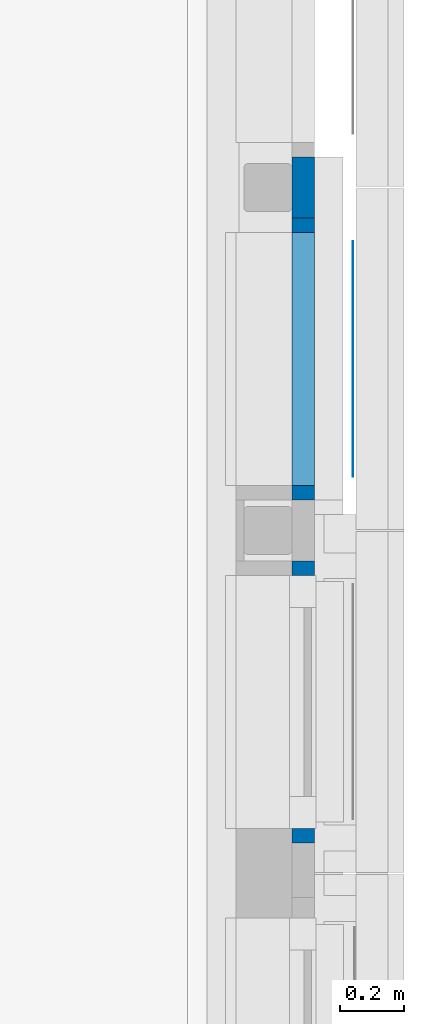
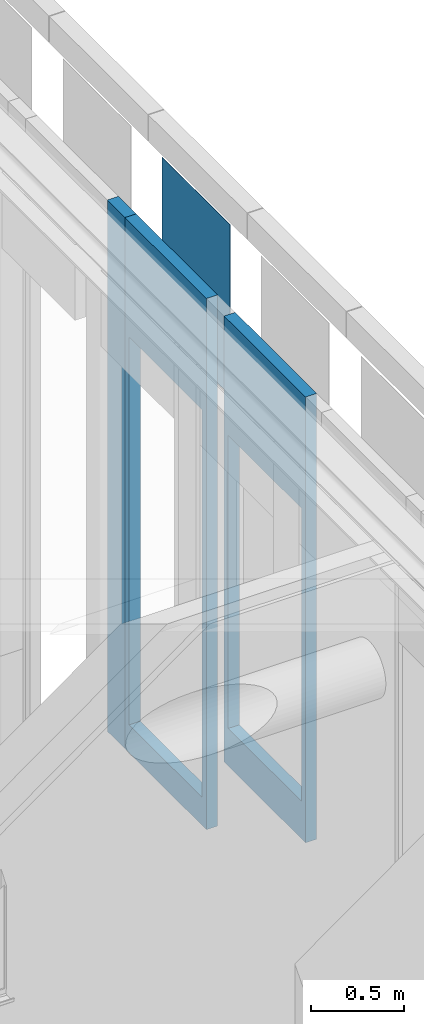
# One storey, part 43 of 128: 4 walls, 2 openings.
"""IFC2X3 building model written with IfcOpenShell, lengths in millimetres."""

from ifc_helpers import new_model, entity, si_unit, converted_unit, derived_unit, direction, frame, frame_2d, origin, place, context, subcontext, project, spatial, rectangle, extrude, material, layer, layer_set, layer_usage, type_object, element, save


model = new_model("IFC2X3")

# Units and contexts
model_context = context("Model", 3, precision=0.01, world=origin(), true_north=direction((6.123031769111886e-17, 1.0)))
body_context = subcontext(model_context, "Body", "Model", "MODEL_VIEW")
ifc_project = project(units=[si_unit("LENGTHUNIT", "METRE", prefix="MILLI"), si_unit("AREAUNIT", "SQUARE_METRE"), si_unit("VOLUMEUNIT", "CUBIC_METRE"), converted_unit("PLANEANGLEUNIT", "DEGREE", entity("IfcRatioMeasure", 0.017453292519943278), si_unit("PLANEANGLEUNIT", "RADIAN"), dimensions=[0, 0, 0, 0, 0, 0, 0]), si_unit("MASSUNIT", "GRAM", prefix="KILO"), derived_unit("MASSDENSITYUNIT", [(si_unit("MASSUNIT", "GRAM", prefix="KILO"), 1), (si_unit("LENGTHUNIT", "METRE"), -3)]), derived_unit("IONCONCENTRATIONUNIT", [(si_unit("MASSUNIT", "GRAM", prefix="KILO"), 1), (si_unit("LENGTHUNIT", "METRE"), -3)]), derived_unit("MOMENTOFINERTIAUNIT", [(si_unit("LENGTHUNIT", "METRE"), 4)]), si_unit("TIMEUNIT", "SECOND"), si_unit("FREQUENCYUNIT", "HERTZ"), si_unit("THERMODYNAMICTEMPERATUREUNIT", "DEGREE_CELSIUS"), derived_unit("THERMALTRANSMITTANCEUNIT", [(si_unit("MASSUNIT", "GRAM", prefix="KILO"), 1), (si_unit("THERMODYNAMICTEMPERATUREUNIT", "KELVIN"), -1), (si_unit("TIMEUNIT", "SECOND"), -3)]), derived_unit("THERMALCONDUCTANCEUNIT", [(si_unit("MASSUNIT", "GRAM", prefix="KILO"), 1), (si_unit("THERMODYNAMICTEMPERATUREUNIT", "KELVIN"), -1), (si_unit("TIMEUNIT", "SECOND"), -3), (si_unit("LENGTHUNIT", "METRE"), 1)]), derived_unit("VOLUMETRICFLOWRATEUNIT", [(si_unit("LENGTHUNIT", "METRE"), 3), (si_unit("TIMEUNIT", "SECOND"), -1)]), derived_unit("MASSFLOWRATEUNIT", [(si_unit("MASSUNIT", "GRAM", prefix="KILO"), 1), (si_unit("TIMEUNIT", "SECOND"), -1)]), derived_unit("ROTATIONALFREQUENCYUNIT", [(si_unit("TIMEUNIT", "SECOND"), -1)]), si_unit("ELECTRICCURRENTUNIT", "AMPERE"), si_unit("ELECTRICVOLTAGEUNIT", "VOLT"), si_unit("POWERUNIT", "WATT"), si_unit("FORCEUNIT", "NEWTON", prefix="KILO"), si_unit("ILLUMINANCEUNIT", "LUX"), si_unit("LUMINOUSFLUXUNIT", "LUMEN"), si_unit("LUMINOUSINTENSITYUNIT", "CANDELA"), derived_unit("USERDEFINED", [(si_unit("MASSUNIT", "GRAM", prefix="KILO"), -1), (si_unit("LENGTHUNIT", "METRE"), -2), (si_unit("TIMEUNIT", "SECOND"), 3), (si_unit("LUMINOUSFLUXUNIT", "LUMEN"), 1)]), derived_unit("USERDEFINED", [(si_unit("MASSUNIT", "GRAM", prefix="KILO"), 1), (si_unit("TIMEUNIT", "SECOND"), -3), (si_unit("LENGTHUNIT", "METRE"), 3), (si_unit("ELECTRICCURRENTUNIT", "AMPERE"), -2)]), derived_unit("SOUNDPOWERUNIT", [(si_unit("MASSUNIT", "GRAM", prefix="KILO"), 1), (si_unit("TIMEUNIT", "SECOND"), -3), (si_unit("LENGTHUNIT", "METRE"), 2)]), derived_unit("SOUNDPRESSUREUNIT", [(si_unit("MASSUNIT", "GRAM", prefix="KILO"), 1), (si_unit("LENGTHUNIT", "METRE"), -1), (si_unit("TIMEUNIT", "SECOND"), -2)]), derived_unit("LINEARVELOCITYUNIT", [(si_unit("LENGTHUNIT", "METRE"), 1), (si_unit("TIMEUNIT", "SECOND"), -1)]), si_unit("PRESSUREUNIT", "PASCAL"), derived_unit("USERDEFINED", [(si_unit("MASSUNIT", "GRAM", prefix="KILO"), 1), (si_unit("LENGTHUNIT", "METRE"), -2), (si_unit("TIMEUNIT", "SECOND"), -2)]), derived_unit("LINEARFORCEUNIT", [(si_unit("MASSUNIT", "GRAM", prefix="KILO"), 1), (si_unit("TIMEUNIT", "SECOND"), -2)]), derived_unit("PLANARFORCEUNIT", [(si_unit("MASSUNIT", "GRAM", prefix="KILO"), 1), (si_unit("LENGTHUNIT", "METRE"), -1), (si_unit("TIMEUNIT", "SECOND"), -2)]), derived_unit("SPECIFICHEATCAPACITYUNIT", [(si_unit("THERMODYNAMICTEMPERATUREUNIT", "KELVIN"), -1), (si_unit("LENGTHUNIT", "METRE"), 2), (si_unit("TIMEUNIT", "SECOND"), -2)]), derived_unit("HEATINGVALUEUNIT", [(si_unit("LENGTHUNIT", "METRE"), 2), (si_unit("TIMEUNIT", "SECOND"), -2)]), derived_unit("VAPORPERMEABILITYUNIT", [(si_unit("LENGTHUNIT", "METRE"), -1), (si_unit("TIMEUNIT", "SECOND"), 1)]), derived_unit("DYNAMICVISCOSITYUNIT", [(si_unit("MASSUNIT", "GRAM", prefix="KILO"), 1), (si_unit("TIMEUNIT", "SECOND"), -1), (si_unit("LENGTHUNIT", "METRE"), -1)]), derived_unit("THERMALEXPANSIONCOEFFICIENTUNIT", [(si_unit("THERMODYNAMICTEMPERATUREUNIT", "KELVIN"), -1)]), derived_unit("MODULUSOFELASTICITYUNIT", [(si_unit("MASSUNIT", "GRAM", prefix="KILO"), 1), (si_unit("LENGTHUNIT", "METRE"), -1), (si_unit("TIMEUNIT", "SECOND"), -2)]), derived_unit("ISOTHERMALMOISTURECAPACITYUNIT", [(si_unit("LENGTHUNIT", "METRE"), 3), (si_unit("MASSUNIT", "GRAM", prefix="KILO"), -1)]), derived_unit("MOISTUREDIFFUSIVITYUNIT", [(si_unit("TIMEUNIT", "SECOND"), -1), (si_unit("LENGTHUNIT", "METRE"), 2)])], contexts=[model_context])

# Site, building, storey
site_placement = place(None, frame((0.0, 300.0, 0.0)))
site = spatial("IfcSite", under=ifc_project, at=site_placement, Name="<Kadastrale nummers>", CompositionType="ELEMENT")
building_placement = place(site_placement, origin())
building = spatial("IfcBuilding", under=site, at=building_placement, CompositionType="ELEMENT")
storey_placement = place(building_placement, frame((0.0, 0.0, 3560.0000331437)))
storey = spatial("IfcBuildingStorey", under=building, at=storey_placement, Name="01 eerste verdieping", CompositionType="ELEMENT", Elevation=3560.0000331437)

# Walls
ifc_material_1 = material(Name="STAAL_RAL 7006")
ifc_layer_1 = layer(ifc_material_1, 2.0)
ifc_layer_set_1 = layer_set([ifc_layer_1], Name="Basic Wall:21_DAT_zetwerk_2")
ifc_layer_usage_1 = layer_usage(ifc_layer_set_1, "AXIS2", "NEGATIVE", 1.000000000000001)
wall_type_1 = type_object("IfcWallType", Name="Basic Wall:21_DAT_zetwerk_2", PredefinedType="STANDARD", material=ifc_layer_set_1)
wall_1_placement = place(storey_placement, frame((48866.0, 33942.0, 2839.9999668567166), z_axis=(0.0, 0.0, 1.0), x_axis=(0.0, -1.0, 0.0)))
element("IfcWallStandardCase", 1, at=wall_1_placement, inside=storey, type_object=wall_type_1, material=ifc_layer_usage_1, Name="Basic Wall:21_DAT_zetwerk_2", ObjectType="Basic Wall:21_DAT_zetwerk_2", context=body_context, shape_type="SweptSolid", body=[
    extrude(rectangle(XDim=733.9999999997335, YDim=1.9999999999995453, at=frame_2d((366.99999999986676, 1.0186296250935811e-12), x_axis=(-1.0, 0.0))), origin(), (0.0, 0.0, 1.0), 1125.0000000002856),
])
ifc_material_2 = material(Name="ISR_Isolatie")
ifc_layer_2 = layer(ifc_material_2, 70.0)
ifc_layer_set_2 = layer_set([ifc_layer_2], Name="Basic Wall:21_DAT_isolatie hard_74")
ifc_layer_usage_2 = layer_usage(ifc_layer_set_2, "AXIS2", "NEGATIVE", 35.0)
wall_type_2 = type_object("IfcWallType", Name="Basic Wall:21_DAT_isolatie hard_74", PredefinedType="STANDARD", material=ifc_layer_set_2)
wall_2_placement = place(storey_placement, frame((48710.0, 34205.0, 90.00000187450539), z_axis=(0.0, 0.0, 1.0), x_axis=(0.0, -1.0, 0.0)))
element("IfcWallStandardCase", 2, at=wall_2_placement, inside=storey, type_object=wall_type_2, material=ifc_layer_usage_2, Name="Basic Wall:21_DAT_isolatie hard_74", ObjectType="Basic Wall:21_DAT_isolatie hard_74", context=body_context, shape_type="SweptSolid", body=[
    extrude(rectangle(XDim=190.0000000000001, YDim=70.00000000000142, at=frame_2d((95.00000000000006, 1.6697754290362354e-13), x_axis=(-1.0, 0.0))), origin(), (0.0, 0.0, 1.0), 3499.999999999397),
])

# Wall, opening
wall_3_placement = place(storey_placement, frame((48710.0, 34015.0, 90.00000187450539), z_axis=(0.0, 0.0, 1.0), x_axis=(0.0, -1.0, 0.0)))
wall_3 = element("IfcWallStandardCase", 3, at=wall_3_placement, inside=storey, type_object=wall_type_2, material=ifc_layer_usage_2, Name="Basic Wall:21_DAT_isolatie hard_74", ObjectType="Basic Wall:21_DAT_isolatie hard_74", context=body_context, shape_type="SweptSolid", body=[
    extrude(rectangle(XDim=879.9999999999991, YDim=70.0000000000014, at=frame_2d((439.99999999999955, -3.5704772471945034e-12), x_axis=(-1.0, 0.0))), origin(), (0.0, 0.0, 1.0), 3499.999999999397),
])
opening_1_placement = place(wall_3_placement, origin())
element("IfcOpeningElement", 4, at=opening_1_placement, cuts=wall_3, Name="Basic Wall:21_DAT_isolatie hard_74", ObjectType="Opening", context=body_context, shape_type="SweptSolid", body=[
    extrude(rectangle(XDim=2555.000000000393, YDim=789.999999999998, at=frame_2d((2.1600499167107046e-12, 5.684341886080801e-13), x_axis=(0.0, 1.0))), frame((440.0, -187.39999999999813, 1462.4999649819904), z_axis=(0.0, 1.0, 0.0), x_axis=(-1.0, 0.0, 0.0)), (0.0, 0.0, 1.0), 374.80000000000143),
])

wall_4_placement = place(storey_placement, frame((48710.0, 32945.0, 652.5000018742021), z_axis=(0.0, 0.0, 1.0), x_axis=(0.0, -1.0, 0.0)))
wall_4 = element("IfcWallStandardCase", 5, at=wall_4_placement, inside=storey, type_object=wall_type_2, material=ifc_layer_usage_2, Name="Basic Wall:21_DAT_isolatie hard_74", ObjectType="Basic Wall:21_DAT_isolatie hard_74", context=body_context, shape_type="SweptSolid", body=[
    extrude(rectangle(XDim=879.9999999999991, YDim=70.00000000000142, at=frame_2d((439.99999999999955, 7.602807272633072e-13), x_axis=(-1.0, 0.0))), origin(), (0.0, 0.0, 1.0), 2937.4999999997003),
])
opening_2_placement = place(wall_4_placement, origin())
element("IfcOpeningElement", 6, at=opening_2_placement, cuts=wall_4, Name="Basic Wall:21_DAT_isolatie hard_74", ObjectType="Opening", context=body_context, shape_type="SweptSolid", body=[
    extrude(rectangle(XDim=1929.9999649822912, YDim=789.999999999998, at=frame_2d((2.1600499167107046e-12, 0.0), x_axis=(0.0, 1.0))), frame((440.0, -187.39999999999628, 1212.499982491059), z_axis=(0.0, 1.0, 0.0), x_axis=(-1.0, 0.0, 0.0)), (0.0, 0.0, 1.0), 374.80000000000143),
])

save(model, "model.ifc")
